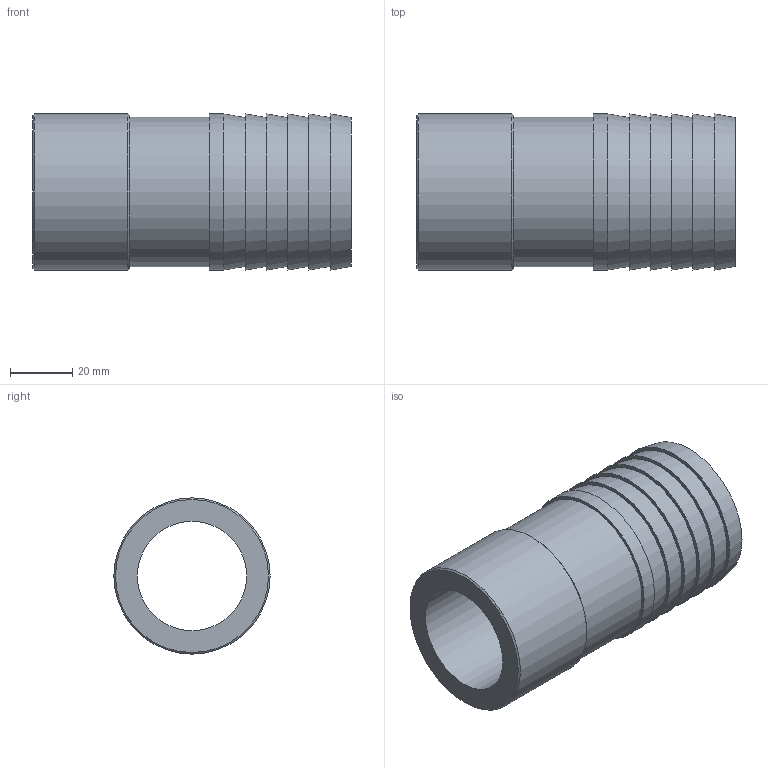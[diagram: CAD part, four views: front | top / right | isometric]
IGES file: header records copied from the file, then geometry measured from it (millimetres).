
Global section: file name: 053600050.ipt; native system: Autodesk Inventor 2015; preprocessor: unknown; author: KIM; date: 20171207.165500; units: millimetre
Bounding box: 102 x 50 x 50 mm (x, y, z)
Volume: 94395.8 mm3; surface area: 29973.5 mm2
Topology: 1 solids, 1 shells, 21 faces, 35 edges, 23 vertices
Faces by surface type: plane 9, cone 8, cylinder 3, revolution 1
Full cylindrical faces by diameter (mm): 48 x1, 50 x2
